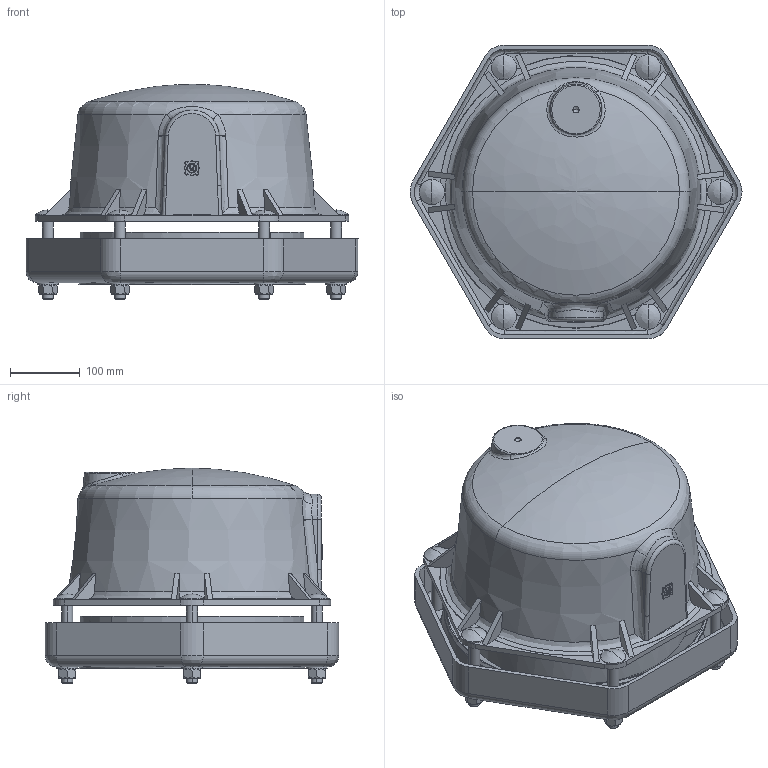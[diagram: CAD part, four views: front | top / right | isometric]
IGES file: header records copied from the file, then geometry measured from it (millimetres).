
Global section: file name: No Iges File Name specified; native system: AutoDesk Inventor R12.0; preprocessor: AutoDesk Inventor Iges Exporter R12.0; date: 20120424.104807; units: millimetre
Bounding box: 475.68 x 420.52 x 308.29 mm (x, y, z)
Volume: 4339372.4 mm3; surface area: 1191802.7 mm2
Topology: 1 solids, 1 shells, 1203 faces, 3460 edges, 2257 vertices
Faces by surface type: revolution 349, cone 283, plane 273, cylinder 137, bspline 106, torus 53, sphere 2
